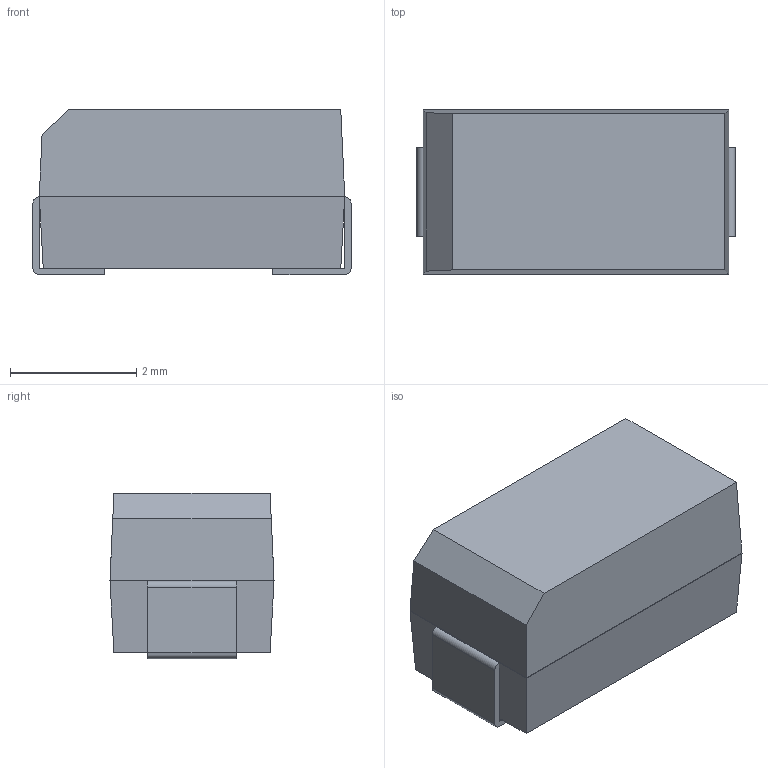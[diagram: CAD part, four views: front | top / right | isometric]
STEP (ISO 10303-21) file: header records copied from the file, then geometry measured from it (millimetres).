
FILE_DESCRIPTION(('FreeCAD Model'),'2;1');
FILE_NAME('/var/www/3D/0T/2400294.1.1.stp','2020-04-11T01:46:29',( 'Author'),(''),'Open CASCADE STEP processor 6.9','FreeCAD','Unknown' );
FILE_SCHEMA(('AUTOMOTIVE_DESIGN { 1 0 10303 214 1 1 1 1 }'));
Length unit declared in the file: millimetre
Products named in the file (4): ASSEMBLY; Body; FilletPin1; FilletPin2
Assembly tree (3 placements, depth 2):
  ASSEMBLY
    Body
    FilletPin1
    FilletPin2
Bounding box: 5.04 x 2.6 x 2.62 mm (x, y, z)
Volume: 31.3 mm3; surface area: 79.7 mm2
Topology: 3 solids, 3 shells, 39 faces, 91 edges, 58 vertices
Faces by surface type: plane 35, cylinder 4
Entity records: 2372 total; most frequent: CARTESIAN_POINT 402, DIRECTION 359, LINE 253, VECTOR 253, ORIENTED_EDGE 182, PCURVE 182, DEFINITIONAL_REPRESENTATION 182, EDGE_CURVE 91
